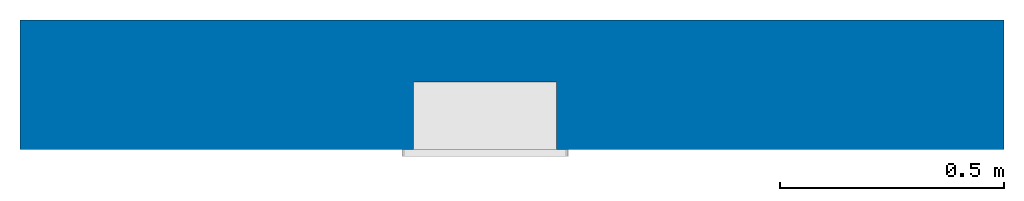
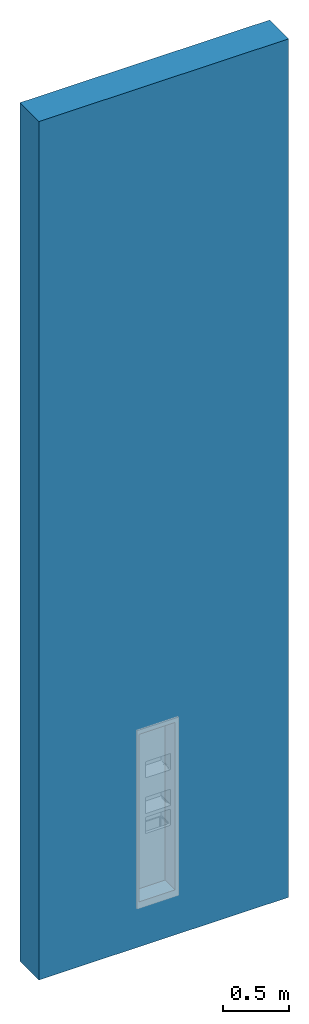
# One storey, incomplete: 1 wall, 1 opening.
"""IFC2X3 building model written with IfcOpenShell, lengths in millimetres."""

from ifc_helpers import new_model, entity, si_unit, converted_unit, derived_unit, direction, frame, frame_2d, origin, place, context, subcontext, project, spatial, rectangle, extrude, material, layer, layer_set, layer_usage, type_object, element, save


model = new_model("IFC2X3")

# Units and contexts
model_context = context("Model", 3, precision=0.01, world=origin(), true_north=direction((6.12303176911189e-17, 1.0)))
context_of_model = context(None, 3, precision=0.01, world=origin(), true_north=direction((6.12303176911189e-17, 1.0)))
body_context = subcontext(model_context, "Body", "Model", "MODEL_VIEW")
ifc_project = project(units=[si_unit("LENGTHUNIT", "METRE", prefix="MILLI"), si_unit("AREAUNIT", "SQUARE_METRE"), si_unit("VOLUMEUNIT", "CUBIC_METRE"), converted_unit("PLANEANGLEUNIT", "DEGREE", entity("IfcRatioMeasure", 0.0174532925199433), si_unit("PLANEANGLEUNIT", "RADIAN"), dimensions=[0, 0, 0, 0, 0, 0, 0]), si_unit("MASSUNIT", "GRAM", prefix="KILO"), si_unit("TIMEUNIT", "SECOND"), si_unit("FREQUENCYUNIT", "HERTZ"), si_unit("THERMODYNAMICTEMPERATUREUNIT", "DEGREE_CELSIUS"), derived_unit("THERMALTRANSMITTANCEUNIT", [(si_unit("MASSUNIT", "GRAM", prefix="KILO"), 1), (si_unit("THERMODYNAMICTEMPERATUREUNIT", "KELVIN"), -1), (si_unit("TIMEUNIT", "SECOND"), -3)]), derived_unit("VOLUMETRICFLOWRATEUNIT", [(si_unit("LENGTHUNIT", "METRE"), 3), (si_unit("TIMEUNIT", "SECOND"), -1)]), si_unit("ELECTRICCURRENTUNIT", "AMPERE"), si_unit("ELECTRICVOLTAGEUNIT", "VOLT"), si_unit("POWERUNIT", "WATT"), si_unit("FORCEUNIT", "NEWTON", prefix="KILO"), si_unit("ILLUMINANCEUNIT", "LUX"), si_unit("LUMINOUSFLUXUNIT", "LUMEN"), si_unit("LUMINOUSINTENSITYUNIT", "CANDELA"), si_unit("PRESSUREUNIT", "PASCAL")], contexts=[model_context, context_of_model])

# Site, building, storey
site_placement = place(None, origin())
site = spatial("IfcSite", under=ifc_project, at=site_placement, Name="Default", CompositionType="ELEMENT")
building_placement = place(site_placement, origin())
building = spatial("IfcBuilding", under=site, at=building_placement, CompositionType="ELEMENT")
storey_placement = place(building_placement, origin())
storey = spatial("IfcBuildingStorey", under=building, at=storey_placement, Name="Level 0", CompositionType="ELEMENT", Elevation=0.0)

# Wall, opening
ifc_material_1 = material(Name="Brick, Common")
ifc_layer_1 = layer(ifc_material_1, 102.5)
ifc_material_2 = material(Name="Fiberglass Batt")
ifc_layer_2 = layer(ifc_material_2, 75.0)
ifc_material_3 = material(Name="Concrete Masonry Units _Low Density")
ifc_layer_3 = layer(ifc_material_3, 100.0)
ifc_material_4 = material(Name="Plaster")
ifc_layer_4 = layer(ifc_material_4, 12.5)
ifc_layer_set = layer_set([ifc_layer_1, ifc_layer_2, ifc_layer_3, ifc_layer_4], Name="Basic Wall:Wall-Ext_102Bwk-75Ins-100LBlk-12P")
ifc_layer_usage = layer_usage(ifc_layer_set, "AXIS2", "NEGATIVE", 145.0)
wall_type = type_object("IfcWallType", Name="Basic Wall:Wall-Ext_102Bwk-75Ins-100LBlk-12P", PredefinedType="STANDARD", material=ifc_layer_set)
wall_placement = place(storey_placement, frame((-5334.05975115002, -14.8227788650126, 0.0)))
wall = element("IfcWallStandardCase", 1, at=wall_placement, inside=storey, type_object=wall_type, material=ifc_layer_usage, Name="Basic Wall:Wall-Ext_102Bwk-75Ins-100LBlk-12P", ObjectType="Basic Wall:Wall-Ext_102Bwk-75Ins-100LBlk-12P", context=body_context, shape_type="SweptSolid", body=[
    extrude(rectangle(XDim=2200.0, YDim=290.0, at=frame_2d((1100.0, 0.0), x_axis=(-1.0, 0.0))), origin(), (0.0, 0.0, 1.0), 8000.0),
])
opening_placement = place(wall_placement, frame((880.0, -160.0, 419.0)))
element("IfcOpeningElement", 2, at=opening_placement, cuts=wall, Name="Basic Wall:Wall-Ext_102Bwk-75Ins-100LBlk-12P", ObjectType="Recess", context=body_context, shape_type="SweptSolid", body=[
    extrude(rectangle(XDim=1561.0, YDim=320.0, at=frame_2d((5.40012479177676e-13, 0.0), x_axis=(0.0, 1.0))), frame((160.0, 0.0, 780.499999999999), z_axis=(0.0, 1.0, 0.0), x_axis=(-1.0, 0.0, 0.0)), (0.0, 0.0, 1.0), 166.599999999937),
])

save(model, "model.ifc")
